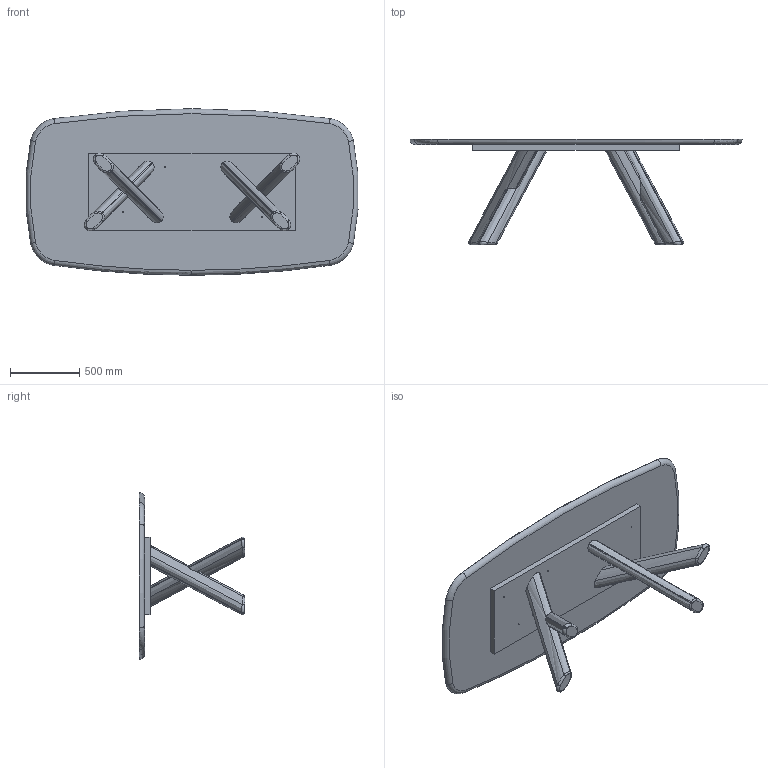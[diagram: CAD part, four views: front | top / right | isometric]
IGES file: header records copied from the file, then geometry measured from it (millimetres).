
Start section: SolidWorks IGES file using analytic representation for surfaces
Global section: file name: Y:\eforma\TECNICO\SOLIDWORKS\E-FORMA\1-TAVOLI\CANOVA\08 modelli 3D web\CN43W_CANOVA_top legno 240x120x75h sag.IGS; native system: SolidWorks 2022; preprocessor: SolidWorks 2022; author: eforma.tech; date: 250415.090932; units: millimetre
Bounding box: 2391.62 x 760 x 1200 mm (x, y, z)
Volume: 170554065.8 mm3; surface area: 8746870.5 mm2
Topology: 6 solids, 6 shells, 174 faces, 419 edges, 263 vertices
Faces by surface type: revolution 116, bspline 36, plane 22
